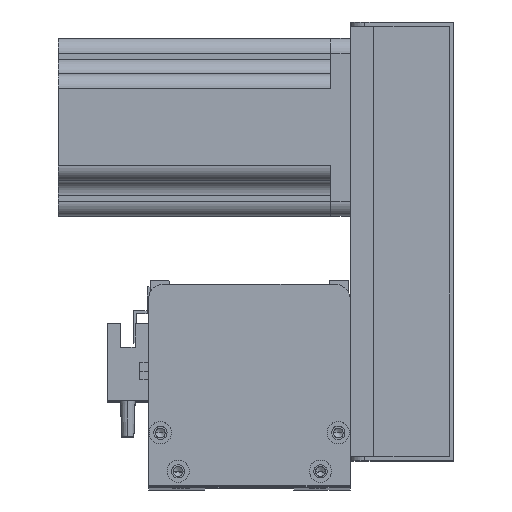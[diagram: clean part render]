
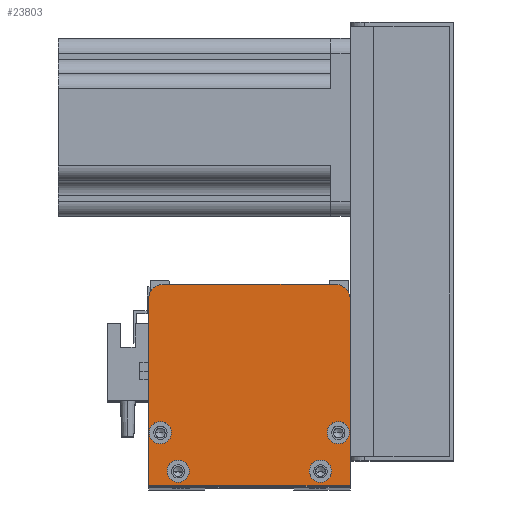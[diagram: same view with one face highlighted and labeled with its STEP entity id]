
A CAD part, top view. The second image highlights one B-rep face of the part: STEP entity #23803.
In plain terms, the highlighted planar face has unit normal (0, 0, 1).
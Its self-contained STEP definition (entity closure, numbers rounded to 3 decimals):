
#80 = VERTEX_POINT ( 'NONE', #6294 ) ;
#101 = CIRCLE ( 'NONE', #6742, 5. ) ;
#207 = CARTESIAN_POINT ( 'NONE',  ( 68., 0., 64. ) ) ;
#338 = AXIS2_PLACEMENT_3D ( 'NONE', #17864, #7539, #1597 ) ;
#435 = VERTEX_POINT ( 'NONE', #11851 ) ;
#586 = CARTESIAN_POINT ( 'NONE',  ( 4., 18., 64. ) ) ;
#794 = CARTESIAN_POINT ( 'NONE',  ( 61.75, 5., 64. ) ) ;
#1180 = CARTESIAN_POINT ( 'NONE',  ( 0.25, 18., 64. ) ) ;
#1240 = VERTEX_POINT ( 'NONE', #19943 ) ;
#1432 = ORIENTED_EDGE ( 'NONE', *, *, #13799, .T. ) ;
#1433 = EDGE_LOOP ( 'NONE', ( #20650, #10053, #23753, #3622, #1432, #4677 ) ) ;
#1597 = DIRECTION ( 'NONE',  ( 1., 0., 0. ) ) ;
#1601 = EDGE_CURVE ( 'NONE', #435, #80, #22339, .T. ) ;
#2284 = AXIS2_PLACEMENT_3D ( 'NONE', #18370, #4263, #18282 ) ;
#2475 = EDGE_CURVE ( 'NONE', #80, #435, #2659, .T. ) ;
#2593 = CIRCLE ( 'NONE', #3307, 5. ) ;
#2659 = CIRCLE ( 'NONE', #338, 3.75 ) ;
#3185 = DIRECTION ( 'NONE',  ( 1., 0., 0. ) ) ;
#3307 = AXIS2_PLACEMENT_3D ( 'NONE', #9259, #13679, #19865 ) ;
#3622 = ORIENTED_EDGE ( 'NONE', *, *, #16257, .T. ) ;
#3899 = CARTESIAN_POINT ( 'NONE',  ( 63., 68., 64. ) ) ;
#3942 = CIRCLE ( 'NONE', #2284, 3.75 ) ;
#3976 = VECTOR ( 'NONE', #22965, 1000. ) ;
#3990 = AXIS2_PLACEMENT_3D ( 'NONE', #17024, #16674, #4360 ) ;
#4087 = CARTESIAN_POINT ( 'NONE',  ( 68., 63., 64. ) ) ;
#4263 = DIRECTION ( 'NONE',  ( 0., 0., 1. ) ) ;
#4360 = DIRECTION ( 'NONE',  ( 1., 0., 0. ) ) ;
#4453 = CIRCLE ( 'NONE', #22928, 3.75 ) ;
#4677 = ORIENTED_EDGE ( 'NONE', *, *, #18098, .T. ) ;
#4687 = CARTESIAN_POINT ( 'NONE',  ( 0., 63., 64. ) ) ;
#5090 = FACE_OUTER_BOUND ( 'NONE', #1433, .T. ) ;
#5372 = DIRECTION ( 'NONE',  ( 0., 0., 1. ) ) ;
#6051 = FACE_BOUND ( 'NONE', #23724, .T. ) ;
#6199 = DIRECTION ( 'NONE',  ( 0., 0., 1. ) ) ;
#6294 = CARTESIAN_POINT ( 'NONE',  ( 60.25, 18., 64. ) ) ;
#6357 = DIRECTION ( 'NONE',  ( 0., 1., 0. ) ) ;
#6493 = EDGE_CURVE ( 'NONE', #17753, #15316, #13491, .T. ) ;
#6551 = EDGE_CURVE ( 'NONE', #15316, #17753, #21316, .T. ) ;
#6742 = AXIS2_PLACEMENT_3D ( 'NONE', #24001, #19935, #23725 ) ;
#6897 = DIRECTION ( 'NONE',  ( 0., 0., 1. ) ) ;
#6935 = LINE ( 'NONE', #207, #18209 ) ;
#7235 = VECTOR ( 'NONE', #19099, 1000. ) ;
#7539 = DIRECTION ( 'NONE',  ( 0., 0., 1. ) ) ;
#8161 = VECTOR ( 'NONE', #6357, 1000. ) ;
#8189 = VERTEX_POINT ( 'NONE', #4687 ) ;
#9259 = CARTESIAN_POINT ( 'NONE',  ( 5., 63., 64. ) ) ;
#9447 = VERTEX_POINT ( 'NONE', #25311 ) ;
#9481 = LINE ( 'NONE', #18657, #8161 ) ;
#9492 = VERTEX_POINT ( 'NONE', #10761 ) ;
#9511 = ORIENTED_EDGE ( 'NONE', *, *, #6551, .F. ) ;
#9525 = CARTESIAN_POINT ( 'NONE',  ( 4., 18., 64. ) ) ;
#9608 = DIRECTION ( 'NONE',  ( 1., 0., 0. ) ) ;
#9935 = EDGE_CURVE ( 'NONE', #1240, #8189, #2593, .T. ) ;
#10053 = ORIENTED_EDGE ( 'NONE', *, *, #9935, .T. ) ;
#10259 = DIRECTION ( 'NONE',  ( 0., 0., 1. ) ) ;
#10587 = ORIENTED_EDGE ( 'NONE', *, *, #6493, .F. ) ;
#10761 = CARTESIAN_POINT ( 'NONE',  ( 7.75, 18., 64. ) ) ;
#11663 = EDGE_CURVE ( 'NONE', #15844, #9447, #16841, .T. ) ;
#11808 = CARTESIAN_POINT ( 'NONE',  ( 0., 0., 64. ) ) ;
#11851 = CARTESIAN_POINT ( 'NONE',  ( 67.75, 18., 64. ) ) ;
#12137 = VERTEX_POINT ( 'NONE', #3899 ) ;
#12299 = AXIS2_PLACEMENT_3D ( 'NONE', #22193, #10259, #22296 ) ;
#12351 = EDGE_CURVE ( 'NONE', #9492, #15019, #23574, .T. ) ;
#12986 = LINE ( 'NONE', #20622, #3976 ) ;
#13453 = ORIENTED_EDGE ( 'NONE', *, *, #2475, .F. ) ;
#13480 = CARTESIAN_POINT ( 'NONE',  ( 68., 0., 64. ) ) ;
#13491 = CIRCLE ( 'NONE', #19008, 3.75 ) ;
#13679 = DIRECTION ( 'NONE',  ( 0., 0., 1. ) ) ;
#13799 = EDGE_CURVE ( 'NONE', #18023, #18140, #9481, .T. ) ;
#14389 = ORIENTED_EDGE ( 'NONE', *, *, #12351, .F. ) ;
#14620 = DIRECTION ( 'NONE',  ( 1., 0., 0. ) ) ;
#15019 = VERTEX_POINT ( 'NONE', #1180 ) ;
#15127 = CARTESIAN_POINT ( 'NONE',  ( 0., 0., 64. ) ) ;
#15297 = LINE ( 'NONE', #15127, #7235 ) ;
#15316 = VERTEX_POINT ( 'NONE', #17962 ) ;
#15699 = FACE_BOUND ( 'NONE', #24336, .T. ) ;
#15844 = VERTEX_POINT ( 'NONE', #794 ) ;
#16257 = EDGE_CURVE ( 'NONE', #17570, #18023, #6935, .T. ) ;
#16341 = EDGE_CURVE ( 'NONE', #8189, #17570, #15297, .T. ) ;
#16627 = AXIS2_PLACEMENT_3D ( 'NONE', #25502, #23703, #3185 ) ;
#16674 = DIRECTION ( 'NONE',  ( 0., 0., 1. ) ) ;
#16841 = CIRCLE ( 'NONE', #19530, 3.75 ) ;
#17024 = CARTESIAN_POINT ( 'NONE',  ( 64., 18., 64. ) ) ;
#17570 = VERTEX_POINT ( 'NONE', #11808 ) ;
#17753 = VERTEX_POINT ( 'NONE', #18520 ) ;
#17862 = ORIENTED_EDGE ( 'NONE', *, *, #1601, .F. ) ;
#17864 = CARTESIAN_POINT ( 'NONE',  ( 64., 18., 64. ) ) ;
#17962 = CARTESIAN_POINT ( 'NONE',  ( 6.25, 5., 64. ) ) ;
#18023 = VERTEX_POINT ( 'NONE', #13480 ) ;
#18035 = EDGE_CURVE ( 'NONE', #15019, #9492, #4453, .T. ) ;
#18098 = EDGE_CURVE ( 'NONE', #18140, #12137, #101, .T. ) ;
#18140 = VERTEX_POINT ( 'NONE', #4087 ) ;
#18209 = VECTOR ( 'NONE', #14620, 1000. ) ;
#18282 = DIRECTION ( 'NONE',  ( 1., 0., 0. ) ) ;
#18370 = CARTESIAN_POINT ( 'NONE',  ( 58., 5., 64. ) ) ;
#18520 = CARTESIAN_POINT ( 'NONE',  ( 13.75, 5., 64. ) ) ;
#18657 = CARTESIAN_POINT ( 'NONE',  ( 68., 0., 64. ) ) ;
#18764 = ORIENTED_EDGE ( 'NONE', *, *, #19831, .F. ) ;
#18978 = EDGE_LOOP ( 'NONE', ( #14389, #19801 ) ) ;
#19008 = AXIS2_PLACEMENT_3D ( 'NONE', #21248, #6897, #25774 ) ;
#19029 = DIRECTION ( 'NONE',  ( 1., 0., 0. ) ) ;
#19099 = DIRECTION ( 'NONE',  ( 0., -1., 0. ) ) ;
#19530 = AXIS2_PLACEMENT_3D ( 'NONE', #24714, #6199, #20557 ) ;
#19801 = ORIENTED_EDGE ( 'NONE', *, *, #18035, .F. ) ;
#19831 = EDGE_CURVE ( 'NONE', #9447, #15844, #3942, .T. ) ;
#19865 = DIRECTION ( 'NONE',  ( 1., 0., 0. ) ) ;
#19935 = DIRECTION ( 'NONE',  ( 0., 0., 1. ) ) ;
#19943 = CARTESIAN_POINT ( 'NONE',  ( 5., 68., 64. ) ) ;
#20557 = DIRECTION ( 'NONE',  ( 1., 0., 0. ) ) ;
#20622 = CARTESIAN_POINT ( 'NONE',  ( 68., 68., 64. ) ) ;
#20650 = ORIENTED_EDGE ( 'NONE', *, *, #23331, .T. ) ;
#21145 = FACE_BOUND ( 'NONE', #23604, .T. ) ;
#21183 = ORIENTED_EDGE ( 'NONE', *, *, #11663, .F. ) ;
#21248 = CARTESIAN_POINT ( 'NONE',  ( 10., 5., 64. ) ) ;
#21316 = CIRCLE ( 'NONE', #16627, 3.75 ) ;
#22193 = CARTESIAN_POINT ( 'NONE',  ( 0., 0., 64. ) ) ;
#22296 = DIRECTION ( 'NONE',  ( 1., 0., 0. ) ) ;
#22339 = CIRCLE ( 'NONE', #3990, 3.75 ) ;
#22928 = AXIS2_PLACEMENT_3D ( 'NONE', #9525, #5372, #9608 ) ;
#22965 = DIRECTION ( 'NONE',  ( -1., 0., 0. ) ) ;
#23331 = EDGE_CURVE ( 'NONE', #12137, #1240, #12986, .T. ) ;
#23574 = CIRCLE ( 'NONE', #24738, 3.75 ) ;
#23604 = EDGE_LOOP ( 'NONE', ( #10587, #9511 ) ) ;
#23703 = DIRECTION ( 'NONE',  ( 0., 0., 1. ) ) ;
#23724 = EDGE_LOOP ( 'NONE', ( #17862, #13453 ) ) ;
#23725 = DIRECTION ( 'NONE',  ( 1., 0., 0. ) ) ;
#23753 = ORIENTED_EDGE ( 'NONE', *, *, #16341, .T. ) ;
#23803 = ADVANCED_FACE ( 'NONE', ( #6051, #25686, #21145, #15699, #5090 ), #24469, .T. ) ;
#24001 = CARTESIAN_POINT ( 'NONE',  ( 63., 63., 64. ) ) ;
#24336 = EDGE_LOOP ( 'NONE', ( #21183, #18764 ) ) ;
#24469 = PLANE ( 'NONE',  #12299 ) ;
#24714 = CARTESIAN_POINT ( 'NONE',  ( 58., 5., 64. ) ) ;
#24738 = AXIS2_PLACEMENT_3D ( 'NONE', #586, #25258, #19029 ) ;
#25258 = DIRECTION ( 'NONE',  ( 0., 0., 1. ) ) ;
#25311 = CARTESIAN_POINT ( 'NONE',  ( 54.25, 5., 64. ) ) ;
#25502 = CARTESIAN_POINT ( 'NONE',  ( 10., 5., 64. ) ) ;
#25686 = FACE_BOUND ( 'NONE', #18978, .T. ) ;
#25774 = DIRECTION ( 'NONE',  ( 1., 0., 0. ) ) ;
